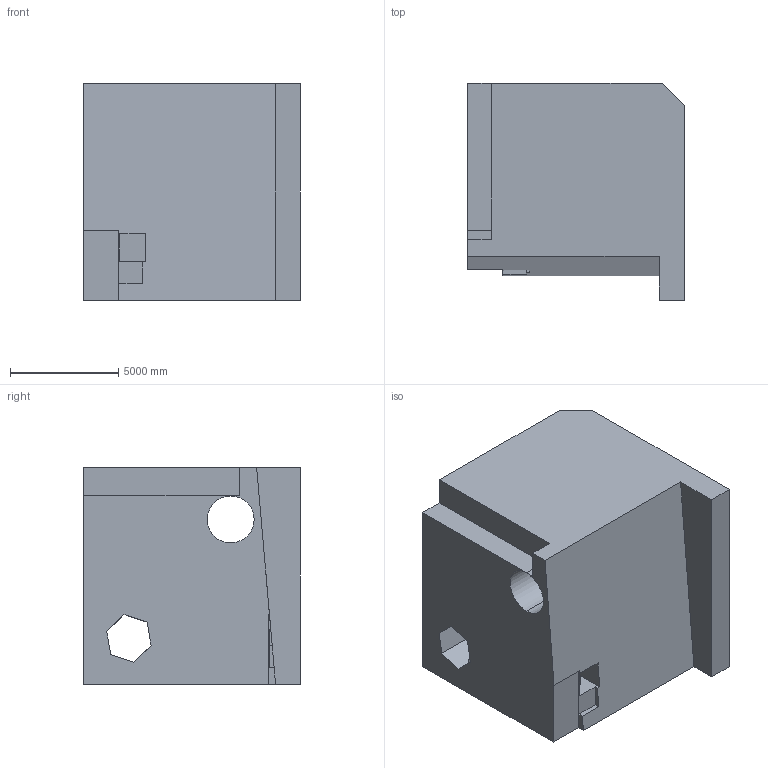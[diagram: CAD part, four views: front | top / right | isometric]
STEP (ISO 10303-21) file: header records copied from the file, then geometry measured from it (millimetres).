
FILE_DESCRIPTION (( 'STEP AP203' ), '1' );
FILE_NAME ('1835.STEP', '2022-08-19T13:21:57', ( 'user' ), ( '' ), 'SwSTEP 2.0', 'SolidWorks 2021', '' );
FILE_SCHEMA (( 'CONFIG_CONTROL_DESIGN' ));
Length unit declared in the file: centimetre
Products named in the file (1): 1835
Bounding box: 10000 x 10000 x 10000 mm (x, y, z)
Volume: 755656000150.2 mm3; surface area: 727410375.6 mm2
Topology: 1 solids, 1 shells, 44 faces, 129 edges, 86 vertices
Faces by surface type: plane 42, cylinder 2
Entity records: 1526 total; most frequent: CARTESIAN_POINT 260, ORIENTED_EDGE 258, DIRECTION 223, EDGE_CURVE 129, VECTOR 125, LINE 125, VERTEX_POINT 86, AXIS2_PLACEMENT_3D 49
